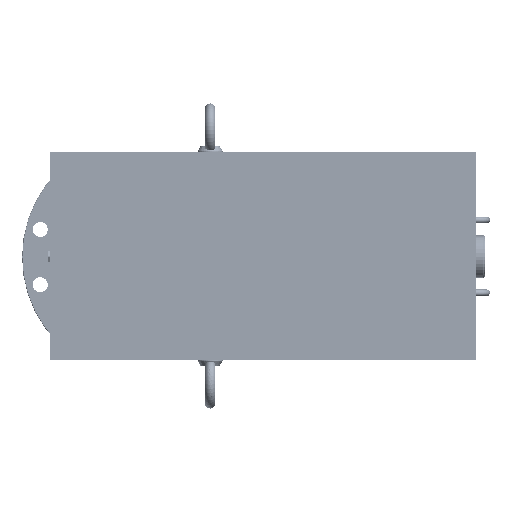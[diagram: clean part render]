
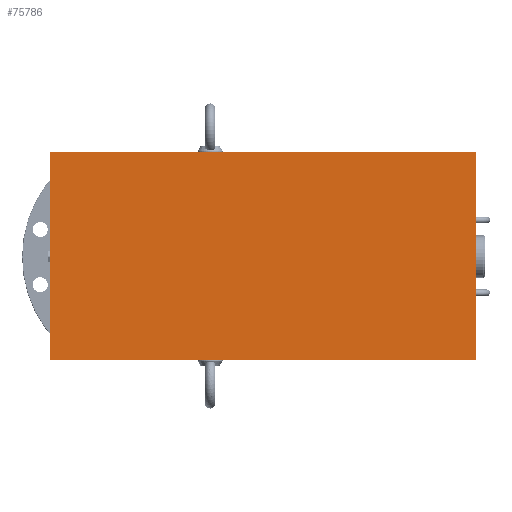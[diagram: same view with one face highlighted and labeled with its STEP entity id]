
A CAD part, top view. The second image highlights one B-rep face of the part: STEP entity #75786.
In plain terms, the highlighted planar face has unit normal (0, 0, 1).
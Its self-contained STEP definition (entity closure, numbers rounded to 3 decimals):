
#75747=CARTESIAN_POINT('',(143.,-130.5,21.5));
#75748=DIRECTION('',(0.,-1.,0.));
#75749=DIRECTION('',(-0.,0.,1.));
#75750=AXIS2_PLACEMENT_3D('',#75747,#75749,#75748);
#75751=PLANE('',#75750);
#75752=CARTESIAN_POINT('',(-111.5,124.,21.5));
#75753=VERTEX_POINT('',#75752);
#75754=CARTESIAN_POINT('',(-111.5,-124.,21.5));
#75755=VERTEX_POINT('',#75754);
#75756=CARTESIAN_POINT('',(-111.5,124.,21.5));
#75757=DIRECTION('',(0.,-1.,0.));
#75758=VECTOR('',#75757,248.);
#75759=LINE('',#75756,#75758);
#75760=EDGE_CURVE('',#75753,#75755,#75759,.T.);
#75761=ORIENTED_EDGE('E73',*,*,#75760,.T.);
#75762=CARTESIAN_POINT('',(397.5,-124.,21.5));
#75763=VERTEX_POINT('',#75762);
#75764=CARTESIAN_POINT('',(-111.5,-124.,21.5));
#75765=DIRECTION('',(1.,0.,0.));
#75766=VECTOR('',#75765,509.);
#75767=LINE('',#75764,#75766);
#75768=EDGE_CURVE('',#75755,#75763,#75767,.T.);
#75769=ORIENTED_EDGE('E82',*,*,#75768,.T.);
#75770=CARTESIAN_POINT('',(397.5,124.,21.5));
#75771=VERTEX_POINT('',#75770);
#75772=CARTESIAN_POINT('',(397.5,-124.,21.5));
#75773=DIRECTION('',(0.,1.,0.));
#75774=VECTOR('',#75773,248.);
#75775=LINE('',#75772,#75774);
#75776=EDGE_CURVE('',#75763,#75771,#75775,.T.);
#75777=ORIENTED_EDGE('E86',*,*,#75776,.T.);
#75778=CARTESIAN_POINT('',(397.5,124.,21.5));
#75779=DIRECTION('',(-1.,0.,0.));
#75780=VECTOR('',#75779,509.);
#75781=LINE('',#75778,#75780);
#75782=EDGE_CURVE('',#75771,#75753,#75781,.T.);
#75783=ORIENTED_EDGE('E78',*,*,#75782,.T.);
#75784=EDGE_LOOP('',(#75761,#75769,#75777,#75783));
#75785=FACE_OUTER_BOUND('',#75784,.T.);
#75786=ADVANCED_FACE('F7',(#75785),#75751,.T.);
